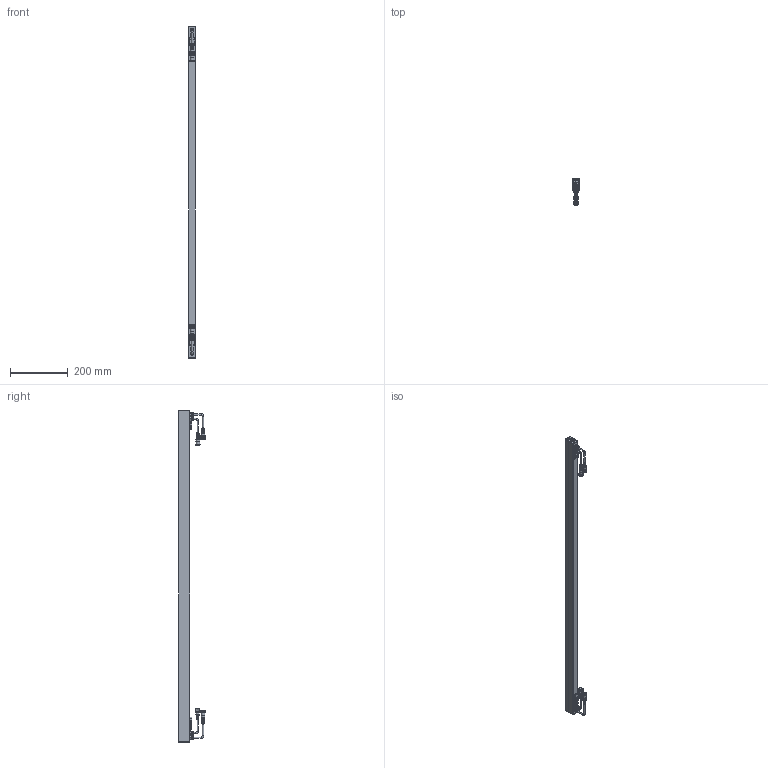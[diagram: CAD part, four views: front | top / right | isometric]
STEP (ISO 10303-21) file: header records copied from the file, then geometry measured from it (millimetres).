
FILE_DESCRIPTION(/* description */ ('Unknown'),/* implementation_level */ '2;1');
FILE_NAME(/* name */ 'PASEO X 0-10V 45.4',/* time_stamp */ '2023-02-07T16:54:39+01:00',/* author */ ('Unknown'),/* organization */ ('Unknown'),/* preprocessor_version */ 'ST-DEVELOPER v18.1',/* originating_system */ 'Solid Edge',/* authorisation */ 'Unknown');
FILE_SCHEMA (('AUTOMOTIVE_DESIGN {1 0 10303 214 3 1 1}'));
Products named in the file (1): paseo x 0-10 1150_Semplifica
Bounding box: 24 x 92.13 x 1152.06 mm (x, y, z)
Volume: 396699.8 mm3; surface area: 340223.2 mm2
Topology: 3 solids, 3 shells, 1762 faces, 4286 edges, 2655 vertices
Faces by surface type: plane 841, cylinder 578, bspline 138, cone 105, torus 84, sphere 16
Full cylindrical faces by diameter (mm): 0.5 x36, 0.7 x45, 2.964 x4, 3.2 x4, 3.5 x4, 4.262 x4, 4.591 x4, 5.5 x4, 6.962 x4, 7 x9, 8.043 x2, 8.085 x4, 8.223 x6, 8.583 x2, 8.637 x2, 8.821 x6, 9.311 x2, 10 x8, 10.2 x4, 10.804 x2, 12 x13, 12.2 x1, 12.544 x2, 12.682 x4, 13.602 x2, 14.5 x2, 16 x2
Entity records: 65383 total; most frequent: CARTESIAN_POINT 14361, DIRECTION 8382, ORIENTED_EDGE 7842, EDGE_CURVE 3921, AXIS2_PLACEMENT_3D 3217, VERTEX_POINT 2565, EDGE_LOOP 2236, FACE_BOUND 2236
